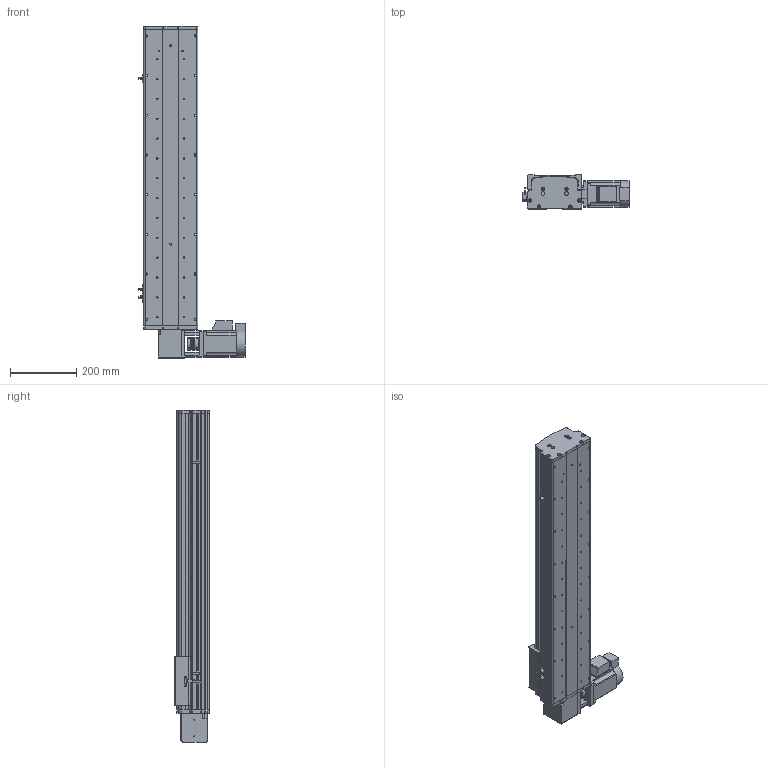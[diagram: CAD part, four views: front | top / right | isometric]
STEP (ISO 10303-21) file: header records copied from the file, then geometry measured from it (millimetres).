
FILE_DESCRIPTION (( 'STEP AP214' ), '1' );
FILE_NAME ('KSD165B-S650-MRT-CM .STEP', '2017-08-14T05:50:35', ( '微软用户' ), ( '微软中国' ), 'SwSTEP 2.0', 'SolidWorks 2014', '' );
FILE_SCHEMA (( 'AUTOMOTIVE_DESIGN' ));
Length unit declared in the file: millimetre
Products named in the file (16): KSD165模组-同步带防尘盖1-650行程-最新版; KSD165模组同步带底板-650行程-最新; 拸秶雄ん750W侜督萇儂; 165宽安装板同步带带电机座750W; 165宽马达安装板同步带右; C39ㄜ1419WP; U倰嫖萇假蚾璃; U倰嫖萇EEㄜSX672; 覜茼え68遵圉猾敕; KSD165模组-同步带-防撞垫2; KSD165模组同步带-防撞垫1; KSD165耀郪-ヶ傷啣1-肮祭湍; KSD165模组-后端板1-同步带; 130宽马达安装板1-带电机座750W（1）; KSD165模组-同步带滑动座-最新版; KSD165B-S650-MRT-CM  
Assembly tree (19 placements, depth 2):
  KSD165B-S650-MRT-CM  
    KSD165模组-同步带滑动座-最新版
    130宽马达安装板1-带电机座750W（1）
    KSD165模组-后端板1-同步带
    KSD165耀郪-ヶ傷啣1-肮祭湍
    KSD165模组同步带-防撞垫1
    KSD165模组-同步带-防撞垫2
    覜茼え68遵圉猾敕
    U倰嫖萇EEㄜSX672  x3
    U倰嫖萇假蚾璃  x3
    C39ㄜ1419WP
    165宽马达安装板同步带右
    165宽安装板同步带带电机座750W
    拸秶雄ん750W侜督萇儂
    KSD165模组同步带底板-650行程-最新
    KSD165模组-同步带防尘盖1-650行程-最新版
Bounding box: 321.2 x 104 x 1004 mm (x, y, z)
Volume: 6306540.8 mm3; surface area: 1408905.1 mm2
Topology: 20 solids, 20 shells, 1460 faces, 4056 edges, 2625 vertices
Faces by surface type: cylinder 791, plane 575, cone 94
Entity records: 46143 total; most frequent: CARTESIAN_POINT 9677, DIRECTION 7186, ORIENTED_EDGE 6764, EDGE_CURVE 3382, AXIS2_PLACEMENT_3D 2726, VERTEX_POINT 2217, LINE 1734, VECTOR 1734
